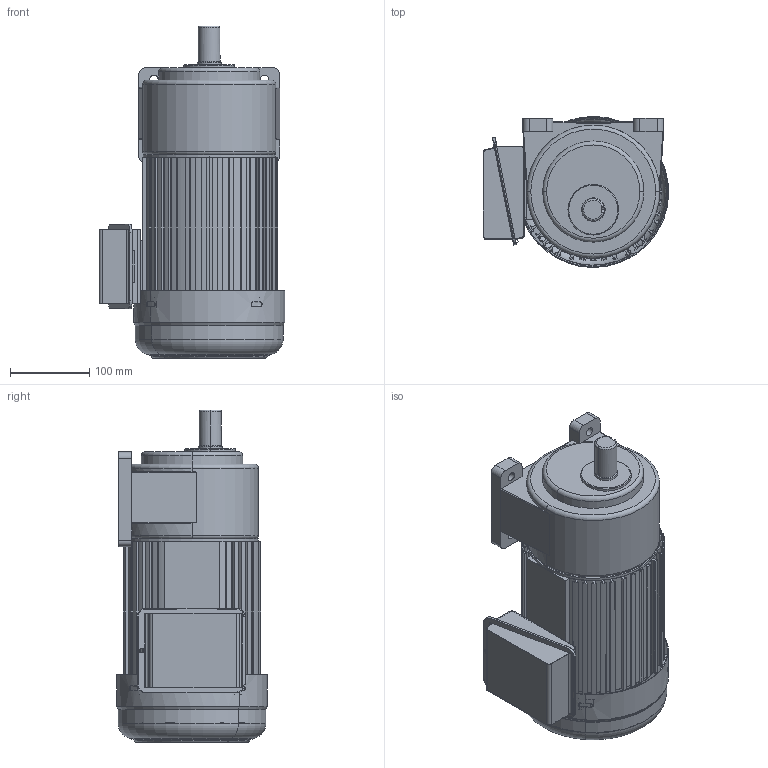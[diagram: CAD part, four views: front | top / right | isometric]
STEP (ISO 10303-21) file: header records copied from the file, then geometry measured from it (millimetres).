
FILE_DESCRIPTION (( 'STEP AP203' ), '1' );
FILE_NAME ('1.5KW3#WS单相.STEP', '2018-08-20T11:51:56', ( '微软中国' ), ( '微软用户' ), 'SwSTEP 2.0', 'SolidWorks 2012', '' );
FILE_SCHEMA (( 'CONFIG_CONTROL_DESIGN' ));
Length unit declared in the file: millimetre
Products named in the file (1): 1.5KW3#WS等眈
Bounding box: 234.57 x 190.97 x 420 mm (x, y, z)
Volume: 7170281.1 mm3; surface area: 603696.6 mm2
Topology: 1 solids, 1 shells, 1358 faces, 3890 edges, 2560 vertices
Faces by surface type: plane 853, cylinder 421, torus 54, cone 30
Entity records: 45964 total; most frequent: CARTESIAN_POINT 9059, ORIENTED_EDGE 7780, DIRECTION 7447, EDGE_CURVE 3890, VECTOR 2855, LINE 2855, VERTEX_POINT 2560, AXIS2_PLACEMENT_3D 2296
